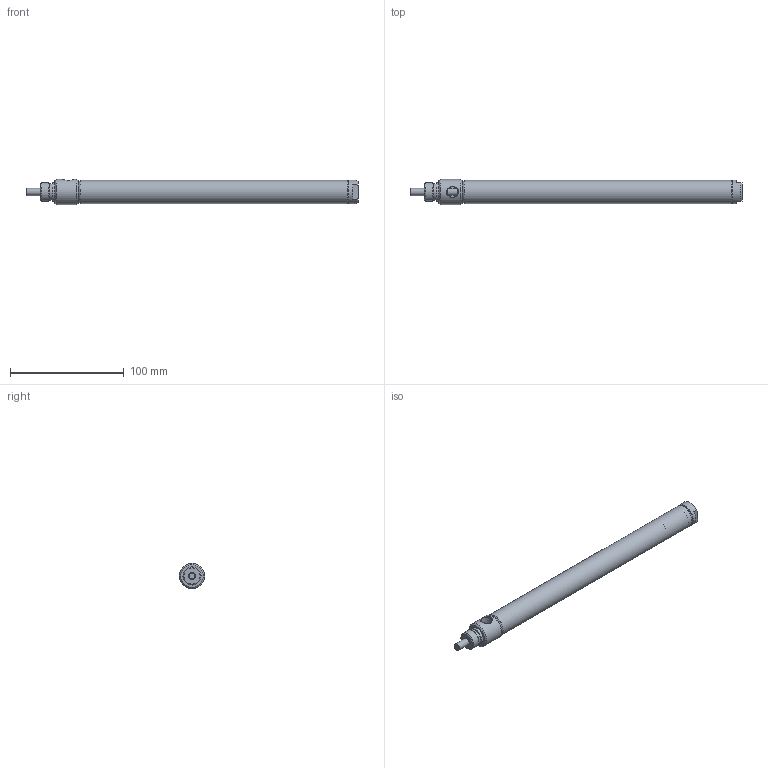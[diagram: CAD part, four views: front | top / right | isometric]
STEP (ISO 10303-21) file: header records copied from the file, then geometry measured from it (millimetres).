
FILE_DESCRIPTION( ( 'STEP AP214' ), '1' );
FILE_NAME( 'p:/temp/worker_427/temp/exporttempdir_2332_37_xUOI9/format_0/0750D01-08A.stp', '2020-05-07T14:29:09', ( 'License CC BY-ND 4.0' ), ( 'CADENAS' ), ' ', 'PARTsolutions', ' ' );
FILE_SCHEMA( ( 'AUTOMOTIVE_DESIGN { 1 0 10303 214 1 1 1 1 }' ) );
Length unit declared in the file: inch
Products named in the file (3): 0750D01-08A; _0750D01-08A-000b; _0750D01-08A-000r
Assembly tree (2 placements, depth 2):
  0750D01-08A
    _0750D01-08A-000b
    _0750D01-08A-000r
Bounding box: 291.31 x 22.23 x 22.23 mm (x, y, z)
Volume: 38183.2 mm3; surface area: 41214.7 mm2
Topology: 2 solids, 2 shells, 44 faces, 85 edges, 54 vertices
Faces by surface type: plane 19, cone 13, cylinder 12
Full cylindrical faces by diameter (mm): 6.35 x3, 14.196 x1, 15.85 x1, 15.875 x1, 19.05 x2, 20.472 x1, 20.65 x2, 22.225 x1
Entity records: 1546 total; most frequent: CARTESIAN_POINT 317, DIRECTION 186, ORIENTED_EDGE 122, AXIS2_PLACEMENT_3D 88, EDGE_LOOP 78, EDGE_CURVE 61, FACE_OUTER_BOUND 56, VERTEX_POINT 51
